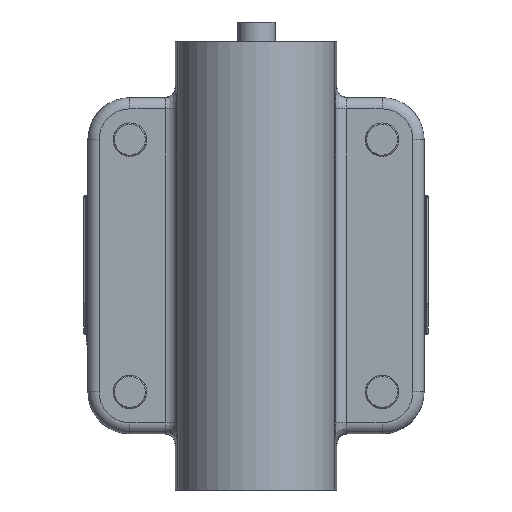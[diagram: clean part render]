
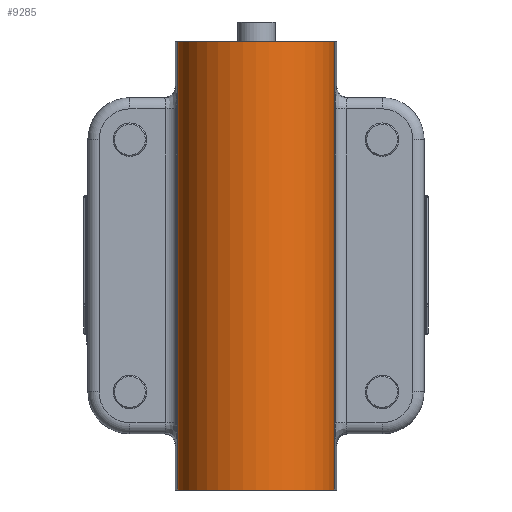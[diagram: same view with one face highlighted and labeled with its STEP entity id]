
A CAD part, front view. The second image highlights one B-rep face of the part: STEP entity #9285.
In plain terms, the highlighted cylindrical face has radius 14 mm (diameter 28 mm), a partial arc.
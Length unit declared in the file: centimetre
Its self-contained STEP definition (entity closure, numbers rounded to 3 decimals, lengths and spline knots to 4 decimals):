
#1581=VECTOR('',#12293,1.);
#1614=VECTOR('',#12422,1.);
#2035=LINE('',#40310,#1581);
#2068=LINE('',#40696,#1614);
#2906=VERTEX_POINT('',#40309);
#2907=VERTEX_POINT('',#40311);
#2927=VERTEX_POINT('',#40503);
#2950=VERTEX_POINT('',#40695);
#3487=CIRCLE('',#10207,1.4);
#3510=CIRCLE('',#10248,1.4);
#4631=EDGE_CURVE('',#2907,#2906,#2035,.T.);
#4663=EDGE_CURVE('',#2906,#2927,#3487,.T.);
#4701=EDGE_CURVE('',#2950,#2927,#2068,.T.);
#4711=EDGE_CURVE('',#2950,#2907,#3510,.T.);
#7115=ORIENTED_EDGE('',*,*,#4663,.T.);
#7116=ORIENTED_EDGE('',*,*,#4701,.F.);
#7117=ORIENTED_EDGE('',*,*,#4711,.T.);
#7118=ORIENTED_EDGE('',*,*,#4631,.T.);
#7945=EDGE_LOOP('',(#7115,#7116,#7117,#7118));
#8651=FACE_BOUND('',#7945,.T.);
#9285=ADVANCED_FACE('',(#8651),#41176,.T.);
#10207=AXIS2_PLACEMENT_3D('',#40504,#12343,#12344);
#10248=AXIS2_PLACEMENT_3D('',#40712,#12439,#12440);
#10260=AXIS2_PLACEMENT_3D('',#40732,#12462,#12463);
#12293=DIRECTION('',(0.,0.,-1.));
#12343=DIRECTION('',(0.,0.,1.));
#12344=DIRECTION('',(-1.4,0.,0.));
#12422=DIRECTION('',(0.,0.,-1.));
#12439=DIRECTION('',(0.,0.,-1.));
#12440=DIRECTION('',(-1.4,0.,0.));
#12462=DIRECTION('',(0.,0.,-1.));
#12463=DIRECTION('',(-1.4,0.,0.));
#40309=CARTESIAN_POINT('',(-1.933,-8.1686,-1.2115));
#40310=CARTESIAN_POINT('',(-1.933,-8.1686,6.7885));
#40311=CARTESIAN_POINT('',(-1.933,-8.1686,6.7885));
#40503=CARTESIAN_POINT('',(0.8653,-8.1686,-1.2115));
#40504=CARTESIAN_POINT('',(-0.5338,-8.1198,-1.2115));
#40695=CARTESIAN_POINT('',(0.8653,-8.1686,6.7885));
#40696=CARTESIAN_POINT('',(0.8653,-8.1686,6.7885));
#40712=CARTESIAN_POINT('',(-0.5338,-8.1198,6.7885));
#40732=CARTESIAN_POINT('',(-0.5338,-8.1198,6.7885));
#41176=CYLINDRICAL_SURFACE('',#10260,1.4);
